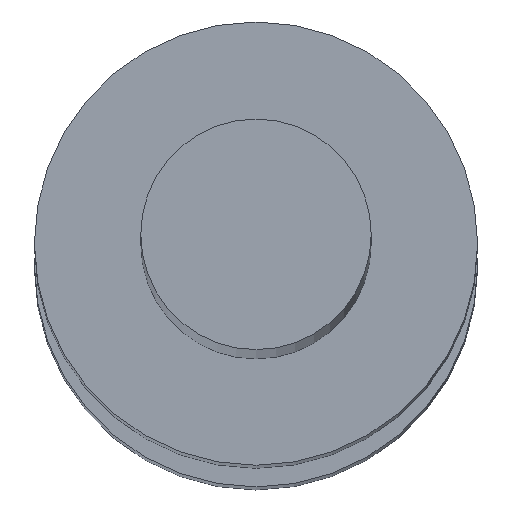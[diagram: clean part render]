
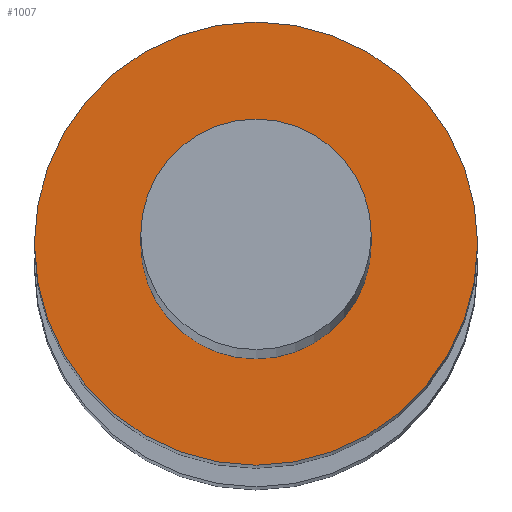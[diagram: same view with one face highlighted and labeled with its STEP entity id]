
A CAD part, top view. The second image highlights one B-rep face of the part: STEP entity #1007.
In plain terms, the highlighted planar face has unit normal (0, 0, 1).
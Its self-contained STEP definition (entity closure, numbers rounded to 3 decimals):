
#17 = EDGE_LOOP ( 'NONE', ( #35, #506 ) ) ;
#35 = ORIENTED_EDGE ( 'NONE', *, *, #603, .F. ) ;
#78 = CARTESIAN_POINT ( 'NONE',  ( 0., 0., 10. ) ) ;
#98 = CARTESIAN_POINT ( 'NONE',  ( 0., 0., 10. ) ) ;
#112 = AXIS2_PLACEMENT_3D ( 'NONE', #513, #844, #779 ) ;
#131 = AXIS2_PLACEMENT_3D ( 'NONE', #98, #823, #182 ) ;
#181 = DIRECTION ( 'NONE',  ( 1., 0., 0. ) ) ;
#182 = DIRECTION ( 'NONE',  ( 1., 0., 0. ) ) ;
#263 = DIRECTION ( 'NONE',  ( 0., 0., 1. ) ) ;
#326 = PLANE ( 'NONE',  #1115 ) ;
#343 = DIRECTION ( 'NONE',  ( 1., 0., 0. ) ) ;
#379 = VERTEX_POINT ( 'NONE', #884 ) ;
#427 = CIRCLE ( 'NONE', #1114, 1.25 ) ;
#433 = DIRECTION ( 'NONE',  ( 0., 0., 1. ) ) ;
#436 = EDGE_CURVE ( 'NONE', #643, #738, #427, .T. ) ;
#455 = CARTESIAN_POINT ( 'NONE',  ( 1.25, 0., 10. ) ) ;
#459 = EDGE_LOOP ( 'NONE', ( #1120, #940 ) ) ;
#506 = ORIENTED_EDGE ( 'NONE', *, *, #1054, .F. ) ;
#513 = CARTESIAN_POINT ( 'NONE',  ( 0., 0., 10. ) ) ;
#603 = EDGE_CURVE ( 'NONE', #672, #379, #612, .T. ) ;
#612 = CIRCLE ( 'NONE', #131, 0.65 ) ;
#643 = VERTEX_POINT ( 'NONE', #455 ) ;
#646 = DIRECTION ( 'NONE',  ( 0., 0., 1. ) ) ;
#657 = CARTESIAN_POINT ( 'NONE',  ( -1.25, 0., 10. ) ) ;
#672 = VERTEX_POINT ( 'NONE', #820 ) ;
#693 = CARTESIAN_POINT ( 'NONE',  ( 0., 0., 10. ) ) ;
#738 = VERTEX_POINT ( 'NONE', #657 ) ;
#779 = DIRECTION ( 'NONE',  ( 1., 0., 0. ) ) ;
#789 = CIRCLE ( 'NONE', #813, 0.65 ) ;
#813 = AXIS2_PLACEMENT_3D ( 'NONE', #1067, #263, #989 ) ;
#820 = CARTESIAN_POINT ( 'NONE',  ( -0.65, 0., 10. ) ) ;
#823 = DIRECTION ( 'NONE',  ( 0., 0., 1. ) ) ;
#844 = DIRECTION ( 'NONE',  ( 0., 0., 1. ) ) ;
#884 = CARTESIAN_POINT ( 'NONE',  ( 0.65, 0., 10. ) ) ;
#888 = FACE_BOUND ( 'NONE', #17, .T. ) ;
#940 = ORIENTED_EDGE ( 'NONE', *, *, #436, .T. ) ;
#981 = CIRCLE ( 'NONE', #112, 1.25 ) ;
#989 = DIRECTION ( 'NONE',  ( 1., 0., 0. ) ) ;
#999 = EDGE_CURVE ( 'NONE', #738, #643, #981, .T. ) ;
#1007 = ADVANCED_FACE ( 'NONE', ( #888, #1128 ), #326, .T. ) ;
#1054 = EDGE_CURVE ( 'NONE', #379, #672, #789, .T. ) ;
#1067 = CARTESIAN_POINT ( 'NONE',  ( 0., 0., 10. ) ) ;
#1114 = AXIS2_PLACEMENT_3D ( 'NONE', #78, #433, #343 ) ;
#1115 = AXIS2_PLACEMENT_3D ( 'NONE', #693, #646, #181 ) ;
#1120 = ORIENTED_EDGE ( 'NONE', *, *, #999, .T. ) ;
#1128 = FACE_OUTER_BOUND ( 'NONE', #459, .T. ) ;
